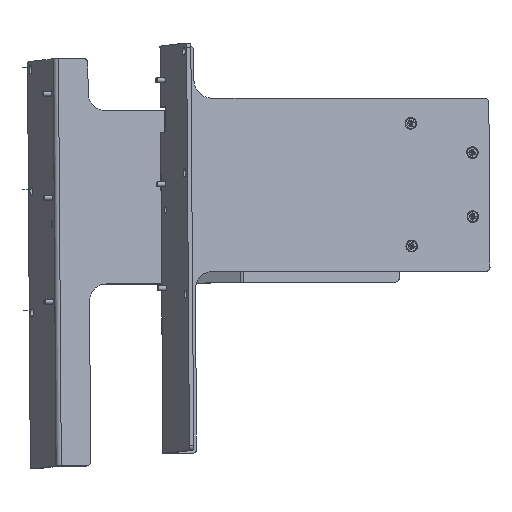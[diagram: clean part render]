
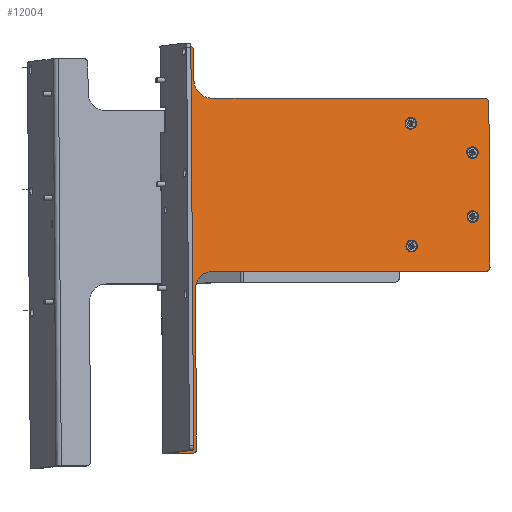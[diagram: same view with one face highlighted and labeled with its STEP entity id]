
A CAD part, front view. The second image highlights one B-rep face of the part: STEP entity #12004.
In plain terms, the highlighted planar face has unit normal (0.241, -0.97, 0.029).
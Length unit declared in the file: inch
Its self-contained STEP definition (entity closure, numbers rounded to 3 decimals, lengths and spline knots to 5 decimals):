
#11522=CARTESIAN_POINT('',(5.50789,-9.1175,5.69814));
#11523=VERTEX_POINT('',#11522);
#11530=CARTESIAN_POINT('',(5.63006,-9.09078,5.5732));
#11531=VERTEX_POINT('',#11530);
#11532=CARTESIAN_POINT('',(5.50876,-9.12098,5.57319));
#11533=DIRECTION('',(-0.241,0.97,-0.029));
#11534=DIRECTION('',(0.681,0.19,0.707));
#11535=AXIS2_PLACEMENT_3D('',#11532,#11533,#11534);
#11536=CIRCLE('',#11535,0.125);
#11537=EDGE_CURVE('',#11523,#11531,#11536,.T.);
#11595=CARTESIAN_POINT('',(4.78107,-9.29844,5.6981));
#11596=VERTEX_POINT('',#11595);
#11604=CARTESIAN_POINT('',(5.50789,-9.1175,5.69814));
#11605=DIRECTION('',(-0.97,-0.242,0.));
#11606=VECTOR('',#11605,0.749);
#11607=LINE('',#11604,#11606);
#11608=EDGE_CURVE('',#11523,#11596,#11607,.T.);
#11804=CARTESIAN_POINT('',(14.17133,-7.14925,-0.67377));
#11805=VERTEX_POINT('',#11804);
#11812=CARTESIAN_POINT('',(14.05091,-7.18293,-0.79873));
#11813=VERTEX_POINT('',#11812);
#11814=CARTESIAN_POINT('',(14.05004,-7.17945,-0.67378));
#11815=DIRECTION('',(-0.241,0.97,-0.029));
#11816=DIRECTION('',(0.691,0.151,-0.707));
#11817=AXIS2_PLACEMENT_3D('',#11814,#11815,#11816);
#11818=CIRCLE('',#11817,0.125);
#11819=EDGE_CURVE('',#11805,#11813,#11818,.T.);
#11830=CARTESIAN_POINT('',(8.09501,-8.62459,0.58883));
#11831=DIRECTION('',(0.241,-0.97,0.029));
#11832=DIRECTION('',(0.007,-0.028,-1.));
#11833=AXIS2_PLACEMENT_3D('',#11830,#11831,#11832);
#11834=PLANE('',#11833);
#11835=ORIENTED_EDGE('',*,*,#11537,.F.);
#11836=ORIENTED_EDGE('',*,*,#11608,.T.);
#11837=CARTESIAN_POINT('',(4.79335,-9.34737,3.94083));
#11838=VERTEX_POINT('',#11837);
#11839=CARTESIAN_POINT('',(4.78107,-9.29844,5.6981));
#11840=DIRECTION('',(0.007,-0.028,-1.));
#11841=VECTOR('',#11840,1.758);
#11842=LINE('',#11839,#11841);
#11843=EDGE_CURVE('',#11596,#11838,#11842,.T.);
#11844=ORIENTED_EDGE('',*,*,#11843,.T.);
#11845=CARTESIAN_POINT('',(4.9378,-9.3114,3.94084));
#11846=VERTEX_POINT('',#11845);
#11847=CARTESIAN_POINT('',(4.79335,-9.34737,3.94083));
#11848=DIRECTION('',(0.97,0.242,0.));
#11849=VECTOR('',#11848,0.14886);
#11850=LINE('',#11847,#11849);
#11851=EDGE_CURVE('',#11838,#11846,#11850,.T.);
#11852=ORIENTED_EDGE('',*,*,#11851,.T.);
#11853=CARTESIAN_POINT('',(4.94293,-9.33186,3.20614));
#11854=VERTEX_POINT('',#11853);
#11855=CARTESIAN_POINT('',(4.9378,-9.3114,3.94084));
#11856=DIRECTION('',(0.007,-0.028,-1.));
#11857=VECTOR('',#11856,0.735);
#11858=LINE('',#11855,#11857);
#11859=EDGE_CURVE('',#11846,#11854,#11858,.T.);
#11860=ORIENTED_EDGE('',*,*,#11859,.T.);
#11861=CARTESIAN_POINT('',(4.79848,-9.36782,3.20613));
#11862=VERTEX_POINT('',#11861);
#11863=CARTESIAN_POINT('',(4.94293,-9.33186,3.20614));
#11864=DIRECTION('',(-0.97,-0.242,0.));
#11865=VECTOR('',#11864,0.14886);
#11866=LINE('',#11863,#11865);
#11867=EDGE_CURVE('',#11854,#11862,#11866,.T.);
#11868=ORIENTED_EDGE('',*,*,#11867,.T.);
#11869=CARTESIAN_POINT('',(4.86311,-9.62547,-6.04706));
#11870=VERTEX_POINT('',#11869);
#11871=CARTESIAN_POINT('',(4.79848,-9.36782,3.20613));
#11872=DIRECTION('',(0.007,-0.028,-1.));
#11873=VECTOR('',#11872,9.257);
#11874=LINE('',#11871,#11873);
#11875=EDGE_CURVE('',#11862,#11870,#11874,.T.);
#11876=ORIENTED_EDGE('',*,*,#11875,.T.);
#11877=CARTESIAN_POINT('',(5.58993,-9.44453,-6.04702));
#11878=VERTEX_POINT('',#11877);
#11879=CARTESIAN_POINT('',(4.86311,-9.62547,-6.04706));
#11880=DIRECTION('',(0.97,0.242,0.));
#11881=VECTOR('',#11880,0.749);
#11882=LINE('',#11879,#11881);
#11883=EDGE_CURVE('',#11870,#11878,#11882,.T.);
#11884=ORIENTED_EDGE('',*,*,#11883,.T.);
#11885=CARTESIAN_POINT('',(5.71035,-9.41085,-5.92206));
#11886=VERTEX_POINT('',#11885);
#11887=CARTESIAN_POINT('',(5.58906,-9.44105,-5.92207));
#11888=DIRECTION('',(-0.241,0.97,-0.029));
#11889=DIRECTION('',(0.691,0.151,-0.707));
#11890=AXIS2_PLACEMENT_3D('',#11887,#11888,#11889);
#11891=CIRCLE('',#11890,0.125);
#11892=EDGE_CURVE('',#11886,#11878,#11891,.T.);
#11893=ORIENTED_EDGE('',*,*,#11892,.F.);
#11894=CARTESIAN_POINT('',(5.67806,-9.28213,-1.29897));
#11895=VERTEX_POINT('',#11894);
#11896=CARTESIAN_POINT('',(5.71035,-9.41085,-5.92206));
#11897=DIRECTION('',(-0.007,0.028,1.));
#11898=VECTOR('',#11897,4.625);
#11899=LINE('',#11896,#11898);
#11900=EDGE_CURVE('',#11886,#11895,#11899,.T.);
#11901=ORIENTED_EDGE('',*,*,#11900,.T.);
#11902=CARTESIAN_POINT('',(6.15976,-9.14742,-0.79915));
#11903=VERTEX_POINT('',#11902);
#11904=CARTESIAN_POINT('',(6.16325,-9.16134,-1.29894));
#11905=DIRECTION('',(0.241,-0.97,0.029));
#11906=DIRECTION('',(-0.691,-0.151,0.707));
#11907=AXIS2_PLACEMENT_3D('',#11904,#11905,#11906);
#11908=CIRCLE('',#11907,0.5);
#11909=EDGE_CURVE('',#11903,#11895,#11908,.T.);
#11910=ORIENTED_EDGE('',*,*,#11909,.F.);
#11911=CARTESIAN_POINT('',(6.15976,-9.14742,-0.79915));
#11912=DIRECTION('',(0.97,0.242,0.));
#11913=VECTOR('',#11912,8.132);
#11914=LINE('',#11911,#11913);
#11915=EDGE_CURVE('',#11903,#11813,#11914,.T.);
#11916=ORIENTED_EDGE('',*,*,#11915,.T.);
#11917=ORIENTED_EDGE('',*,*,#11819,.F.);
#11918=CARTESIAN_POINT('',(14.13817,-7.01705,4.07427));
#11919=VERTEX_POINT('',#11918);
#11920=CARTESIAN_POINT('',(14.17133,-7.14925,-0.67377));
#11921=DIRECTION('',(-0.007,0.028,1.));
#11922=VECTOR('',#11921,4.75);
#11923=LINE('',#11920,#11922);
#11924=EDGE_CURVE('',#11805,#11919,#11923,.T.);
#11925=ORIENTED_EDGE('',*,*,#11924,.T.);
#11926=CARTESIAN_POINT('',(14.016,-7.04377,4.19921));
#11927=VERTEX_POINT('',#11926);
#11928=CARTESIAN_POINT('',(14.01687,-7.04725,4.07427));
#11929=DIRECTION('',(-0.241,0.97,-0.029));
#11930=DIRECTION('',(0.681,0.19,0.707));
#11931=AXIS2_PLACEMENT_3D('',#11928,#11929,#11930);
#11932=CIRCLE('',#11931,0.125);
#11933=EDGE_CURVE('',#11927,#11919,#11932,.T.);
#11934=ORIENTED_EDGE('',*,*,#11933,.F.);
#11935=CARTESIAN_POINT('',(6.12485,-9.00826,4.19879));
#11936=VERTEX_POINT('',#11935);
#11937=CARTESIAN_POINT('',(14.016,-7.04377,4.19921));
#11938=DIRECTION('',(-0.97,-0.242,0.));
#11939=VECTOR('',#11938,8.132);
#11940=LINE('',#11937,#11939);
#11941=EDGE_CURVE('',#11927,#11936,#11940,.T.);
#11942=ORIENTED_EDGE('',*,*,#11941,.T.);
#11943=CARTESIAN_POINT('',(5.63617,-9.11513,4.69856));
#11944=VERTEX_POINT('',#11943);
#11945=CARTESIAN_POINT('',(6.12136,-8.99434,4.69859));
#11946=DIRECTION('',(0.241,-0.97,0.029));
#11947=DIRECTION('',(-0.681,-0.19,-0.707));
#11948=AXIS2_PLACEMENT_3D('',#11945,#11946,#11947);
#11949=CIRCLE('',#11948,0.5);
#11950=EDGE_CURVE('',#11944,#11936,#11949,.T.);
#11951=ORIENTED_EDGE('',*,*,#11950,.F.);
#11952=CARTESIAN_POINT('',(5.63617,-9.11513,4.69856));
#11953=DIRECTION('',(-0.007,0.028,1.));
#11954=VECTOR('',#11953,0.875);
#11955=LINE('',#11952,#11954);
#11956=EDGE_CURVE('',#11944,#11531,#11955,.T.);
#11957=ORIENTED_EDGE('',*,*,#11956,.T.);
#11958=EDGE_LOOP('',(#11835,#11836,#11844,#11852,#11860,#11868,#11876,#11884,#11893,#11901,#11910,#11916,#11917,#11925,#11934,#11942,#11951,#11957));
#11959=FACE_OUTER_BOUND('',#11958,.T.);
#11960=CARTESIAN_POINT('',(11.91411,-7.69836,-0.24007));
#11961=VERTEX_POINT('',#11960);
#11962=CARTESIAN_POINT('',(11.91292,-7.69362,-0.07014));
#11963=DIRECTION('',(-0.241,0.97,-0.029));
#11964=DIRECTION('',(0.007,-0.028,-1.));
#11965=AXIS2_PLACEMENT_3D('',#11962,#11963,#11964);
#11966=CIRCLE('',#11965,0.17);
#11967=EDGE_CURVE('',#11961,#11961,#11966,.T.);
#11968=ORIENTED_EDGE('',*,*,#11967,.T.);
#11969=EDGE_LOOP('',(#11968));
#11970=FACE_BOUND('',#11969,.T.);
#11971=CARTESIAN_POINT('',(13.67718,-7.23433,0.60867));
#11972=VERTEX_POINT('',#11971);
#11973=CARTESIAN_POINT('',(13.676,-7.2296,0.7786));
#11974=DIRECTION('',(-0.241,0.97,-0.029));
#11975=DIRECTION('',(0.007,-0.028,-1.));
#11976=AXIS2_PLACEMENT_3D('',#11973,#11974,#11975);
#11977=CIRCLE('',#11976,0.17);
#11978=EDGE_CURVE('',#11972,#11972,#11977,.T.);
#11979=ORIENTED_EDGE('',*,*,#11978,.T.);
#11980=EDGE_LOOP('',(#11979));
#11981=FACE_BOUND('',#11980,.T.);
#11982=CARTESIAN_POINT('',(13.66431,-7.18301,2.45192));
#11983=VERTEX_POINT('',#11982);
#11984=CARTESIAN_POINT('',(13.66312,-7.17828,2.62185));
#11985=DIRECTION('',(-0.241,0.97,-0.029));
#11986=DIRECTION('',(0.007,-0.028,-1.));
#11987=AXIS2_PLACEMENT_3D('',#11984,#11985,#11986);
#11988=CIRCLE('',#11987,0.17);
#11989=EDGE_CURVE('',#11983,#11983,#11988,.T.);
#11990=ORIENTED_EDGE('',*,*,#11989,.T.);
#11991=EDGE_LOOP('',(#11990));
#11992=FACE_BOUND('',#11991,.T.);
#11993=CARTESIAN_POINT('',(11.88937,-7.59977,3.30047));
#11994=VERTEX_POINT('',#11993);
#11995=CARTESIAN_POINT('',(11.88819,-7.59504,3.4704));
#11996=DIRECTION('',(-0.241,0.97,-0.029));
#11997=DIRECTION('',(0.007,-0.028,-1.));
#11998=AXIS2_PLACEMENT_3D('',#11995,#11996,#11997);
#11999=CIRCLE('',#11998,0.17);
#12000=EDGE_CURVE('',#11994,#11994,#11999,.T.);
#12001=ORIENTED_EDGE('',*,*,#12000,.T.);
#12002=EDGE_LOOP('',(#12001));
#12003=FACE_BOUND('',#12002,.T.);
#12004=ADVANCED_FACE('',(#11959,#11970,#11981,#11992,#12003),#11834,.T.);
